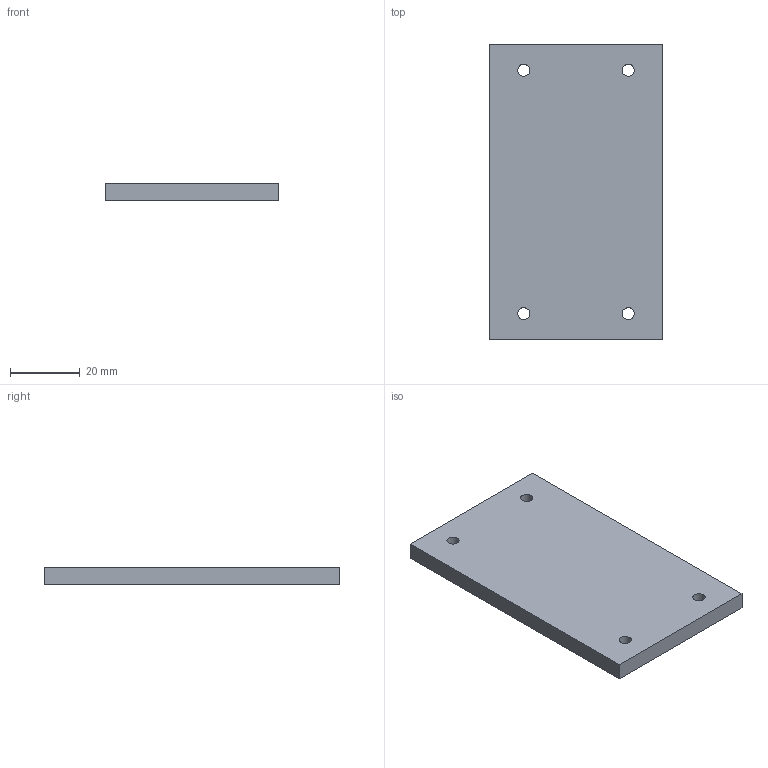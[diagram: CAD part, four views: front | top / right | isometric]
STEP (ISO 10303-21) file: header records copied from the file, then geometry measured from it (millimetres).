
FILE_DESCRIPTION(('Open CASCADE Model'),'2;1');
FILE_NAME('Open CASCADE Shape Model','2026-10-15T18:22:07',('Author'),( 'Open CASCADE'),'Open CASCADE STEP processor 7.9','Open CASCADE 7.9' ,'Unknown');
FILE_SCHEMA(('AUTOMOTIVE_DESIGN { 1 0 10303 214 1 1 1 1 }'));
Length unit declared in the file: millimetre
Products named in the file (1): Open CASCADE STEP translator 7.9 6
Bounding box: 50 x 85 x 5 mm (x, y, z)
Volume: 21057.6 mm3; surface area: 9992.9 mm2
Topology: 1 solids, 1 shells, 10 faces, 24 edges, 16 vertices
Faces by surface type: plane 6, cylinder 4
Full cylindrical faces by diameter (mm): 3.5 x4
Entity records: 634 total; most frequent: DIRECTION 102, CARTESIAN_POINT 99, LINE 56, VECTOR 56, ORIENTED_EDGE 48, PCURVE 48, DEFINITIONAL_REPRESENTATION 48, EDGE_CURVE 24
